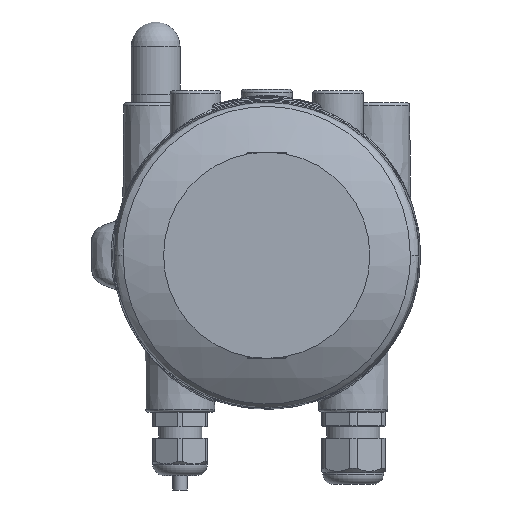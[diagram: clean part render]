
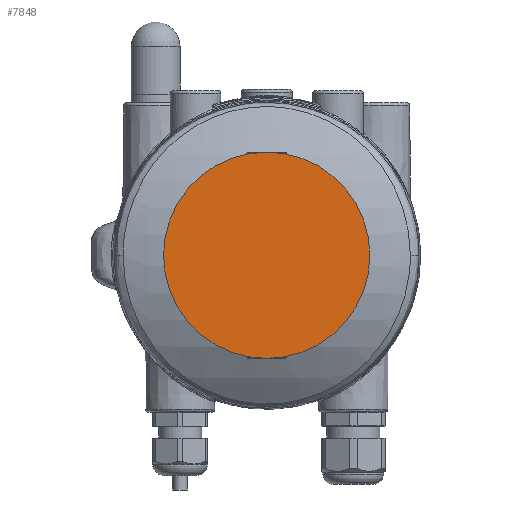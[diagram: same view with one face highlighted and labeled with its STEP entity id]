
A CAD part, front view. The second image highlights one B-rep face of the part: STEP entity #7848.
In plain terms, the highlighted planar face has unit normal (0, -1, 0).
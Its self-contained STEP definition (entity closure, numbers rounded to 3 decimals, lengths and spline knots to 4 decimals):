
#1150=PLANE('',#8384);
#1349=FACE_OUTER_BOUND('',#1843,.T.);
#1843=EDGE_LOOP('',(#5286,#5287));
#2703=CIRCLE('',#8365,1.4075);
#2706=CIRCLE('',#8368,1.4075);
#3178=VERTEX_POINT('',#13991);
#3179=VERTEX_POINT('',#13992);
#3986=EDGE_CURVE('',#3178,#3179,#2703,.T.);
#3990=EDGE_CURVE('',#3179,#3178,#2706,.T.);
#5286=ORIENTED_EDGE('',*,*,#3986,.F.);
#5287=ORIENTED_EDGE('',*,*,#3990,.F.);
#7848=ADVANCED_FACE('',(#1349),#1150,.F.);
#8365=AXIS2_PLACEMENT_3D('',#13993,#9217,#9218);
#8368=AXIS2_PLACEMENT_3D('',#13999,#9224,#9225);
#8384=AXIS2_PLACEMENT_3D('',#14394,#9259,#9260);
#9217=DIRECTION('center_axis',(0.,1.,0.));
#9218=DIRECTION('ref_axis',(0.,0.,-1.));
#9224=DIRECTION('center_axis',(0.,1.,0.));
#9225=DIRECTION('ref_axis',(0.,0.,-1.));
#9259=DIRECTION('center_axis',(0.,1.,0.));
#9260=DIRECTION('ref_axis',(0.,0.,1.));
#13991=CARTESIAN_POINT('',(0.1731,-6.0686,-1.4096));
#13992=CARTESIAN_POINT('',(0.1731,-6.0686,1.4054));
#13993=CARTESIAN_POINT('Origin',(0.1731,-6.0686,-0.0021));
#13999=CARTESIAN_POINT('Origin',(0.1731,-6.0686,-0.0021));
#14394=CARTESIAN_POINT('Origin',(0.2518,-6.0686,-0.0021));
